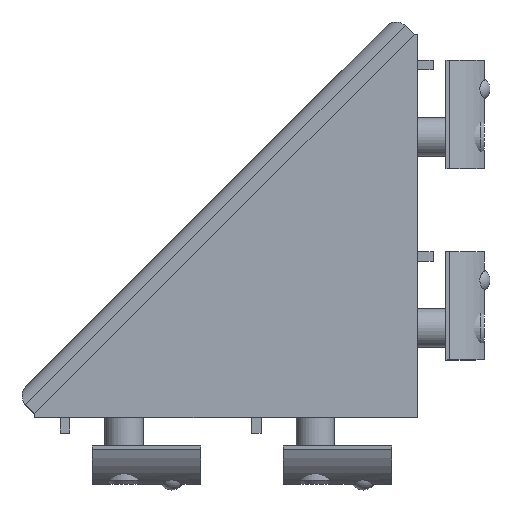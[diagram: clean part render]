
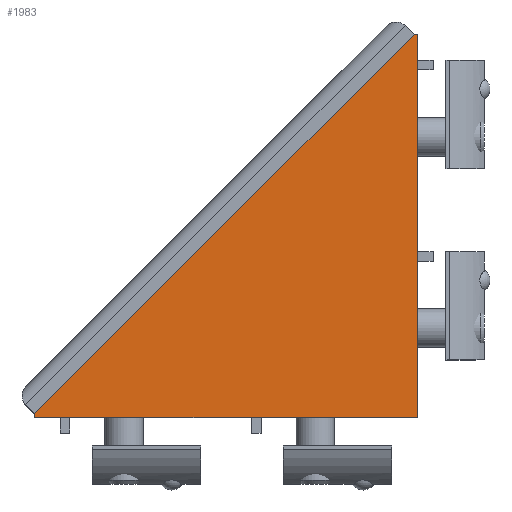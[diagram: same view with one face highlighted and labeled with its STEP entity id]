
A CAD part, top view. The second image highlights one B-rep face of the part: STEP entity #1983.
In plain terms, the highlighted planar face has unit normal (0, 0, 1).
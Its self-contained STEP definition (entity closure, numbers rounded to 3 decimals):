
#186=ORIENTED_EDGE('',*,*,#585,.T.);
#187=ORIENTED_EDGE('',*,*,#587,.T.);
#188=ORIENTED_EDGE('',*,*,#576,.T.);
#189=ORIENTED_EDGE('',*,*,#607,.T.);
#190=ORIENTED_EDGE('',*,*,#610,.T.);
#576=EDGE_CURVE('',#793,#792,#932,.T.);
#585=EDGE_CURVE('',#798,#801,#941,.T.);
#587=EDGE_CURVE('',#801,#793,#943,.T.);
#607=EDGE_CURVE('',#792,#819,#959,.T.);
#610=EDGE_CURVE('',#819,#798,#962,.T.);
#792=VERTEX_POINT('',#2716);
#793=VERTEX_POINT('',#2718);
#798=VERTEX_POINT('',#2730);
#801=VERTEX_POINT('',#2735);
#819=VERTEX_POINT('',#2777);
#932=LINE('',#2717,#1104);
#941=LINE('',#2736,#1113);
#943=LINE('',#2739,#1115);
#959=LINE('',#2778,#1131);
#962=LINE('',#2782,#1134);
#1104=VECTOR('',#2251,1000.);
#1113=VECTOR('',#2262,1000.);
#1115=VECTOR('',#2266,1000.);
#1131=VECTOR('',#2292,1000.);
#1134=VECTOR('',#2297,1000.);
#1276=EDGE_LOOP('',(#186,#187,#188,#189,#190));
#1388=FACE_BOUND('',#1276,.T.);
#1492=PLANE('',#2097);
#1983=ADVANCED_FACE('',(#1388),#1492,.T.);
#2097=AXIS2_PLACEMENT_3D('',#2783,#2298,#2299);
#2251=DIRECTION('',(1.,0.,0.));
#2262=DIRECTION('',(-0.707,-0.707,0.));
#2266=DIRECTION('',(0.,-1.,0.));
#2292=DIRECTION('',(0.,1.,0.));
#2297=DIRECTION('',(-1.,0.,0.));
#2298=DIRECTION('',(0.,0.,1.));
#2299=DIRECTION('',(1.,0.,0.));
#2716=CARTESIAN_POINT('',(60.,0.,15.));
#2717=CARTESIAN_POINT('',(0.,0.,15.));
#2718=CARTESIAN_POINT('',(0.,0.,15.));
#2730=CARTESIAN_POINT('',(59.5,60.,15.));
#2735=CARTESIAN_POINT('',(0.,0.5,15.));
#2736=CARTESIAN_POINT('',(59.5,60.,15.));
#2739=CARTESIAN_POINT('',(0.,0.5,15.));
#2777=CARTESIAN_POINT('',(60.,60.,15.));
#2778=CARTESIAN_POINT('',(60.,0.,15.));
#2782=CARTESIAN_POINT('',(60.,60.,15.));
#2783=CARTESIAN_POINT('',(0.,0.,15.));
